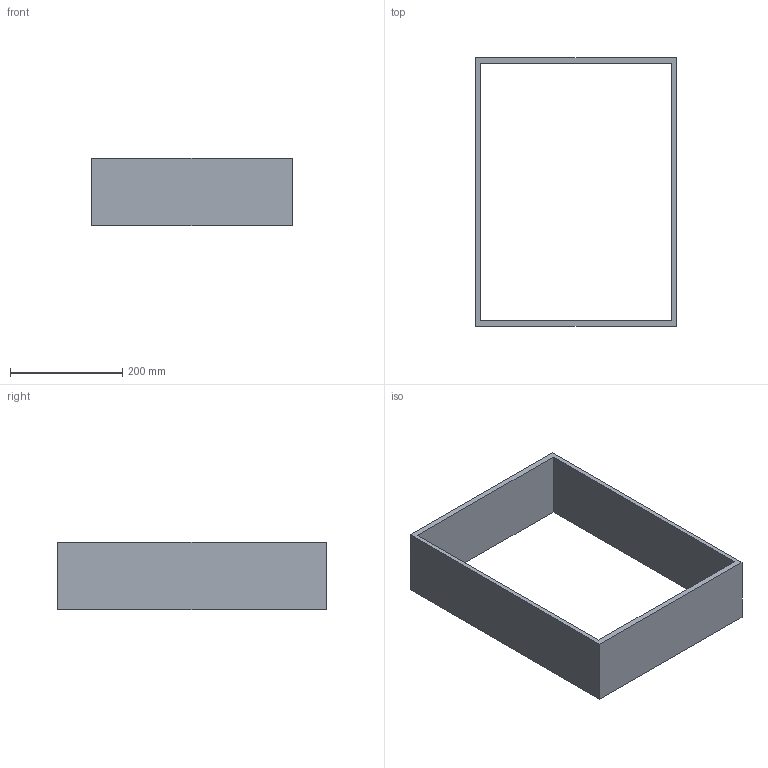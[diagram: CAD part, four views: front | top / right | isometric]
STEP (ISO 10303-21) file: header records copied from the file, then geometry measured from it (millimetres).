
FILE_DESCRIPTION (( 'STEP AP214' ), '1' );
FILE_NAME ('Vario Multi H120 NL500_B450_16 mm_Alu-Alu.step', '2010-10-08T09:48:02', ( 'grass' ), ( '' ), 'SwSTEP 2.0', 'SolidWorks 2010', '' );
FILE_SCHEMA (( 'AUTOMOTIVE_DESIGN' ));
Length unit declared in the file: millimetre
Products named in the file (1): Vario Multi H120 NL500_B450_16 mm_Alu-Alu
Bounding box: 358 x 479 x 120 mm (x, y, z)
Volume: 1822560 mm3; surface area: 423016 mm2
Topology: 1 solids, 1 shells, 10 faces, 24 edges, 16 vertices
Faces by surface type: plane 10
Entity records: 326 total; most frequent: CARTESIAN_POINT 51, ORIENTED_EDGE 48, DIRECTION 46, LINE 24, VECTOR 24, EDGE_CURVE 24, VERTEX_POINT 16, EDGE_LOOP 12
